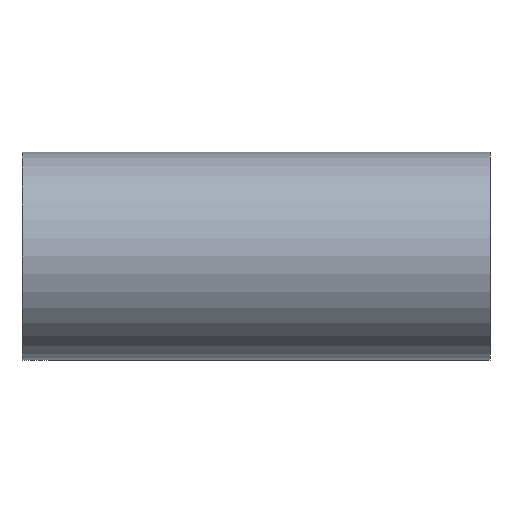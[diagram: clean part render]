
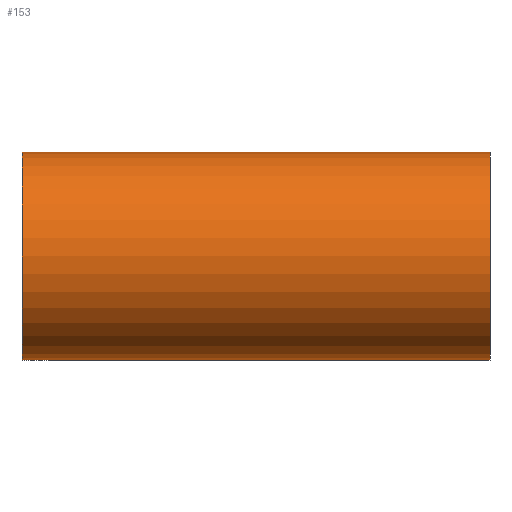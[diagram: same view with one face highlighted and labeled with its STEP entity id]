
A CAD part, front view. The second image highlights one B-rep face of the part: STEP entity #153.
In plain terms, the highlighted cylindrical face has radius 12.7 mm (diameter 25.4 mm), a partial arc.
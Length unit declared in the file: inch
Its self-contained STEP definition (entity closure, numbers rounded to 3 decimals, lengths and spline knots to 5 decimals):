
#6 = CARTESIAN_POINT ( 'NONE',  ( 1.125, 0., 0.5 ) ) ;
#7 = VERTEX_POINT ( 'NONE', #372 ) ;
#11 = CARTESIAN_POINT ( 'NONE',  ( 1.125, 0., -0.5 ) ) ;
#13 = ORIENTED_EDGE ( 'NONE', *, *, #297, .T. ) ;
#15 = CARTESIAN_POINT ( 'NONE',  ( 1.125, 0., -0.5 ) ) ;
#18 = DIRECTION ( 'NONE',  ( -1., 0., 0. ) ) ;
#39 = EDGE_CURVE ( 'NONE', #124, #86, #238, .T. ) ;
#40 = EDGE_CURVE ( 'NONE', #7, #404, #97, .T. ) ;
#44 = ORIENTED_EDGE ( 'NONE', *, *, #39, .F. ) ;
#48 = ORIENTED_EDGE ( 'NONE', *, *, #416, .T. ) ;
#49 = VERTEX_POINT ( 'NONE', #369 ) ;
#52 = DIRECTION ( 'NONE',  ( -1., 0., 0. ) ) ;
#55 = LINE ( 'NONE', #85, #125 ) ;
#63 = LINE ( 'NONE', #11, #329 ) ;
#79 = DIRECTION ( 'NONE',  ( -1., 0., 0. ) ) ;
#83 = VECTOR ( 'NONE', #246, 39.37008 ) ;
#85 = CARTESIAN_POINT ( 'NONE',  ( 1.125, 0., 0.5 ) ) ;
#86 = VERTEX_POINT ( 'NONE', #194 ) ;
#97 = CIRCLE ( 'NONE', #378, 0.5 ) ;
#103 = VERTEX_POINT ( 'NONE', #180 ) ;
#119 = LINE ( 'NONE', #15, #83 ) ;
#124 = VERTEX_POINT ( 'NONE', #191 ) ;
#125 = VECTOR ( 'NONE', #52, 39.37008 ) ;
#140 = ORIENTED_EDGE ( 'NONE', *, *, #423, .F. ) ;
#153 = ADVANCED_FACE ( 'NONE', ( #259 ), #165, .T. ) ;
#161 = DIRECTION ( 'NONE',  ( 0., 0., 1. ) ) ;
#165 = CYLINDRICAL_SURFACE ( 'NONE', #362, 0.5 ) ;
#168 = CARTESIAN_POINT ( 'NONE',  ( 1.125, 0., 0. ) ) ;
#170 = ORIENTED_EDGE ( 'NONE', *, *, #40, .T. ) ;
#180 = CARTESIAN_POINT ( 'NONE',  ( 0., 0., 0.5 ) ) ;
#191 = CARTESIAN_POINT ( 'NONE',  ( 1.125, 0., 0.5 ) ) ;
#194 = CARTESIAN_POINT ( 'NONE',  ( 1.125, 0., -0.5 ) ) ;
#199 = DIRECTION ( 'NONE',  ( -1., 0., 0. ) ) ;
#221 = ORIENTED_EDGE ( 'NONE', *, *, #409, .F. ) ;
#238 = CIRCLE ( 'NONE', #379, 0.5 ) ;
#246 = DIRECTION ( 'NONE',  ( -1., 0., 0. ) ) ;
#259 = FACE_OUTER_BOUND ( 'NONE', #398, .T. ) ;
#266 = DIRECTION ( 'NONE',  ( 0., 0., -1. ) ) ;
#268 = DIRECTION ( 'NONE',  ( 1., 0., 0. ) ) ;
#269 = CARTESIAN_POINT ( 'NONE',  ( -1.125, 0., 0. ) ) ;
#288 = DIRECTION ( 'NONE',  ( 0., 0., -1. ) ) ;
#289 = DIRECTION ( 'NONE',  ( 1., 0., 0. ) ) ;
#296 = CARTESIAN_POINT ( 'NONE',  ( 1.125, 0., 0. ) ) ;
#297 = EDGE_CURVE ( 'NONE', #103, #7, #426, .T. ) ;
#316 = CARTESIAN_POINT ( 'NONE',  ( -1.125, 0., -0.5 ) ) ;
#329 = VECTOR ( 'NONE', #79, 39.37008 ) ;
#362 = AXIS2_PLACEMENT_3D ( 'NONE', #168, #199, #161 ) ;
#369 = CARTESIAN_POINT ( 'NONE',  ( 0., 0., -0.5 ) ) ;
#372 = CARTESIAN_POINT ( 'NONE',  ( -1.125, 0., 0.5 ) ) ;
#378 = AXIS2_PLACEMENT_3D ( 'NONE', #269, #268, #266 ) ;
#379 = AXIS2_PLACEMENT_3D ( 'NONE', #296, #289, #288 ) ;
#398 = EDGE_LOOP ( 'NONE', ( #221, #44, #48, #13, #170, #140 ) ) ;
#404 = VERTEX_POINT ( 'NONE', #316 ) ;
#409 = EDGE_CURVE ( 'NONE', #86, #49, #63, .T. ) ;
#416 = EDGE_CURVE ( 'NONE', #124, #103, #55, .T. ) ;
#419 = VECTOR ( 'NONE', #18, 39.37008 ) ;
#423 = EDGE_CURVE ( 'NONE', #49, #404, #119, .T. ) ;
#426 = LINE ( 'NONE', #6, #419 ) ;
